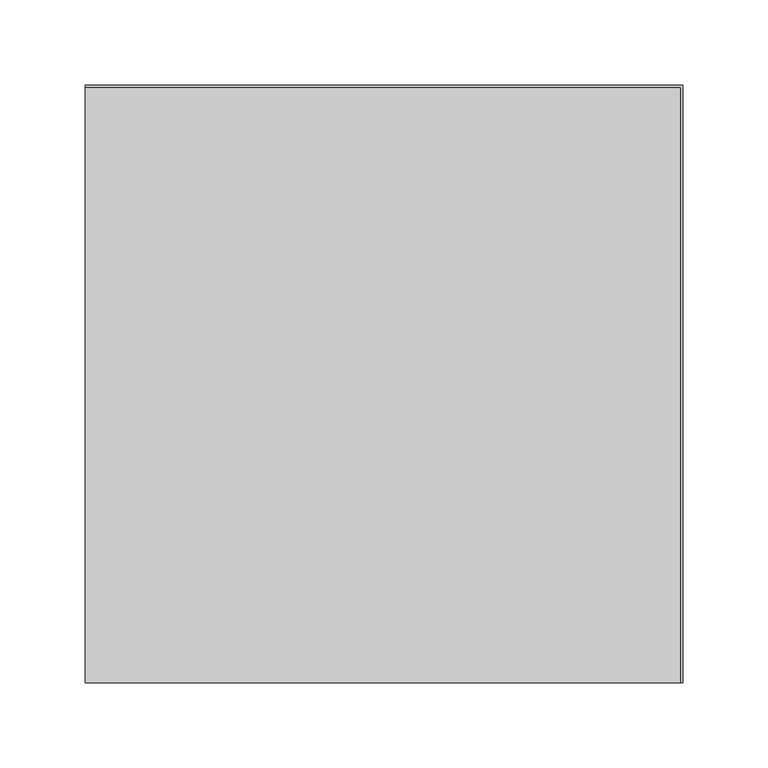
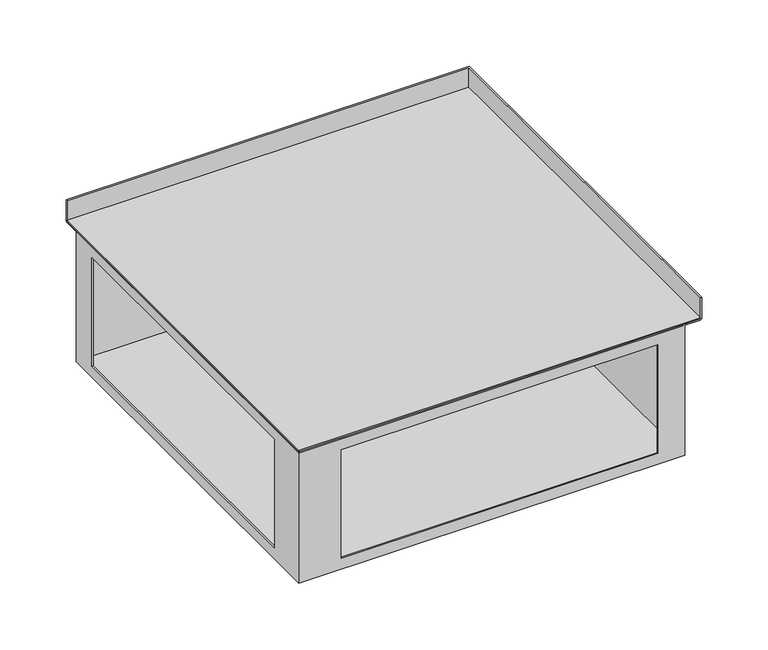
"""IFC4 building model written with IfcOpenShell, lengths in millimetres: proxy geometry, TECHNO_Угловой элемент_KVU : 350_140_90°."""

from ifc_helpers import new_model, si_unit, frame, origin, place, context, project, spatial, polyline, circle_curve, ellipse_curve, outline, extrude, source, transform, mapped, element, save
from ifc_brep_helpers import plane_surface, cylinder_surface, advanced_brep


def mechanical_equipment_83b2ba30(model_context):
    return source(origin(), model_context, "Body", "SolidModel", [
        extrude(outline(polyline([(0.0, 173.8), (348.8, 173.8), (348.8, -175.0), (0.0, -175.0), (0.0, 173.8)])), frame((0.0, 0.0, -19.3), z_axis=(0.0, 0.0, 1.0), x_axis=(1.0, 0.0, 0.0)), (0.0, 0.0, 1.0), 1.2),
        advanced_brep(
        [(1.2, 159.0, -138.8), (1.2, -173.8, -138.8), (334.0, -173.8, -138.8), (334.0, 159.0, -138.8), (0.0, 160.2, -140.0), (335.2, 160.2, -140.0), (335.2, -175.0, -140.0), (0.0, -175.0, -140.0), (0.0, 160.2, -20.5), (0.0, -175.0, -20.5), (0.0, 159.0, -20.5), (0.0, 160.2, -19.3), (0.0, 173.8, -19.3), (0.0, 173.8, 0.0), (0.0, 175.0, 0.0), (0.0, 175.0, -19.3), (0.0, 173.8, -20.5), (0.0, -138.0, -30.3), (0.0, -138.0, -130.0), (0.0, 137.0, -130.0), (0.0, 137.0, -30.3), (335.2, -175.0, -20.5), (348.8, -175.0, -20.5), (350.0, -175.0, -19.3), (350.0, -175.0, 0.0), (348.8, -175.0, 0.0), (348.8, -175.0, -19.3), (335.2, -175.0, -19.3), (334.0, -175.0, -20.5), (37.0, -175.0, -130.0), (37.0, -175.0, -30.3), (312.0, -175.0, -30.3), (312.0, -175.0, -130.0), (335.2, 160.2, -20.5), (1.2, 160.2, -19.3), (1.2, -173.8, -19.3), (335.2, -173.8, -19.3), (348.8, 173.8, -19.3), (335.2, -159.0, -19.3), (16.0, -159.0, -19.3), (16.0, 160.2, -19.3), (335.2, 160.2, -19.3), (16.0, -159.0, -20.5), (16.0, 159.0, -20.5), (334.0, -159.0, -20.5), (334.0, -173.8, -20.5), (1.2, -173.8, -20.5), (1.2, 159.0, -20.5), (1.2, -138.0, -130.0), (1.2, -138.0, -30.3), (1.2, 137.0, -30.3), (1.2, 137.0, -130.0), (37.0, -173.8, -30.3), (37.0, -173.8, -130.0), (312.0, -173.8, -130.0), (312.0, -173.8, -30.3), (350.0, 175.0, -19.3), (350.0, 175.0, 0.0), (348.8, 173.8, 0.0), (348.8, 173.8, -20.5), (334.0, 159.0, -20.5)],
        [
            (0, 1),
            (1, 2),
            (2, 3),
            (3, 0),
            (4, 5),
            (5, 6),
            (6, 7),
            (7, 4),
            (8, 4),
            (7, 9),
            (9, 10),
            (10, 11, circle_curve(frame((0.0, 160.2, -20.5), z_axis=(-1.0, 0.0, 0.0), x_axis=(0.0, -1.0, 0.0)), 1.2)),
            (11, 12),
            (12, 13),
            (13, 14),
            (14, 15),
            (15, 16, circle_curve(frame((0.0, 173.8, -19.3), z_axis=(-1.0, 0.0, 0.0), x_axis=(0.0, -1.0, 0.0)), 1.2)),
            (16, 8),
            (17, 18),
            (18, 19),
            (19, 20),
            (20, 17),
            (6, 21),
            (21, 22),
            (22, 23, circle_curve(frame((348.8, -175.0, -19.3), z_axis=(0.0, -1.0, 0.0), x_axis=(-1.0, 0.0, 0.0)), 1.2)),
            (23, 24),
            (24, 25),
            (25, 26),
            (26, 27),
            (27, 28, circle_curve(frame((335.2, -175.0, -20.5), z_axis=(0.0, -1.0, 0.0), x_axis=(-1.0, 0.0, 0.0)), 1.2)),
            (28, 9),
            (29, 30),
            (30, 31),
            (31, 32),
            (32, 29),
            (8, 33),
            (33, 5),
            (33, 21),
            (34, 35),
            (35, 36),
            (36, 27),
            (26, 37),
            (37, 12),
            (11, 34),
            (38, 39),
            (39, 40),
            (40, 41),
            (41, 38),
            (39, 42),
            (42, 43),
            (43, 40, circle_curve(frame((16.0, 160.2, -20.5), z_axis=(-1.0, 0.0, 0.0), x_axis=(0.0, -1.0, 0.0)), 1.2)),
            (38, 44, circle_curve(frame((335.2, -159.0, -20.5), z_axis=(0.0, -1.0, 0.0), x_axis=(-1.0, 0.0, 0.0)), 1.2)),
            (44, 42),
            (44, 45),
            (45, 46),
            (46, 47),
            (47, 43),
            (46, 1),
            (0, 47),
            (48, 49),
            (49, 50),
            (50, 51),
            (51, 48),
            (45, 2),
            (52, 53),
            (53, 54),
            (54, 55),
            (55, 52),
            (34, 10, ellipse_curve(frame((1.2, 160.2, -20.5), z_axis=(0.7071067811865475, -0.7071067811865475, 0.0), x_axis=(0.7071067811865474, 0.7071067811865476, 0.0)), 1.6970563, 1.2)),
            (9, 35, ellipse_curve(frame((1.2, -173.8, -20.5), z_axis=(-0.7071067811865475, 0.7071067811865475, 0.0), x_axis=(0.7071067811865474, 0.7071067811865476, 0.0)), 1.6970563, 1.2)),
            (28, 36, ellipse_curve(frame((335.2, -173.8, -20.5), z_axis=(-0.7071067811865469, 0.7071067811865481, 0.0), x_axis=(-0.7071067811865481, -0.7071067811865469, 0.0)), 1.6970563, 1.2)),
            (23, 56),
            (56, 57),
            (57, 24),
            (57, 14),
            (13, 58),
            (58, 25),
            (58, 37),
            (16, 59),
            (59, 22),
            (59, 56, ellipse_curve(frame((348.8, 173.8, -19.3), z_axis=(0.7071067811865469, -0.7071067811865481, 0.0), x_axis=(-0.7071067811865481, -0.7071067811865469, 0.0)), 1.6970563, 1.2)),
            (56, 15),
            (41, 60, ellipse_curve(frame((335.2, 160.2, -20.5), z_axis=(0.7071067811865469, -0.7071067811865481, 0.0), x_axis=(-0.7071067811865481, -0.7071067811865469, 0.0)), 1.6970563, 1.2)),
            (60, 44),
            (60, 3),
            (43, 60),
            (48, 18),
            (17, 49),
            (51, 19),
            (50, 20),
            (52, 30),
            (29, 53),
            (55, 31),
            (54, 32),
        ],
        [
            plane_surface(frame((0.0, 159.0, -138.8), z_axis=(0.0, 0.0, 1.0), x_axis=(0.0, -1.0, 0.0))),
            plane_surface(frame((0.0, 159.0, -140.0), z_axis=(0.0, 0.0, -1.0), x_axis=(0.0, 1.0, 0.0))),
            plane_surface(frame((0.0, 159.0, -138.8), z_axis=(-1.0, 0.0, 0.0), x_axis=(0.0, 0.0, -1.0))),
            plane_surface(frame((0.0, -175.0, -138.8), z_axis=(0.0, -1.0, 0.0), x_axis=(0.0, 0.0, -1.0))),
            plane_surface(frame((0.0, 160.2, -140.0), z_axis=(0.0, 1.0, 0.0), x_axis=(0.0, 0.0, -1.0))),
            plane_surface(frame((335.2, -175.0, -140.0), z_axis=(1.0, 0.0, 0.0), x_axis=(0.0, 0.0, -1.0))),
            plane_surface(frame((1.2, 160.2, -19.3), z_axis=(0.0, 0.0, 1.0), x_axis=(0.0, -1.0, 0.0))),
            plane_surface(frame((16.0, 160.2, -19.3), z_axis=(1.0, 0.0, 0.0), x_axis=(0.0, -1.0, 0.0))),
            plane_surface(frame((16.0, -159.0, -19.3), z_axis=(0.0, 1.0, 0.0), x_axis=(1.0, 0.0, 0.0))),
            plane_surface(frame((16.0, 160.2, -20.5), z_axis=(0.0, 0.0, -1.0), x_axis=(0.0, -1.0, 0.0))),
            plane_surface(frame((1.2, 160.2, -20.5), z_axis=(1.0, 0.0, 0.0), x_axis=(0.0, -1.0, 0.0))),
            plane_surface(frame((1.2, -173.8, -20.5), z_axis=(0.0, 1.0, 0.0), x_axis=(1.0, 0.0, 0.0))),
            cylinder_surface(frame((1.2, 160.2, -20.5), z_axis=(0.0, 1.0, 0.0), x_axis=(-1.0, 0.0, 0.0)), 1.2),
            cylinder_surface(frame((0.0, -173.8, -20.5), z_axis=(-1.0, 0.0, 0.0), x_axis=(0.0, -1.0, 0.0)), 1.2),
            plane_surface(frame((350.0, -175.0, -19.3), z_axis=(1.0, 0.0, 0.0), x_axis=(0.0, 1.0, 0.0))),
            plane_surface(frame((350.0, -175.0, 0.0), z_axis=(0.0, 0.0, 1.0), x_axis=(0.0, 1.0, 0.0))),
            plane_surface(frame((348.8, -175.0, 0.0), z_axis=(-1.0, 0.0, 0.0), x_axis=(0.0, 1.0, 0.0))),
            plane_surface(frame((335.2, -175.0, -20.5), z_axis=(0.0, 0.0, -1.0), x_axis=(0.0, 1.0, 0.0))),
            cylinder_surface(frame((348.8, -175.0, -19.3), z_axis=(0.0, -1.0, 0.0), x_axis=(-1.0, 0.0, 0.0)), 1.2),
            plane_surface(frame((350.0, 175.0, -19.3), z_axis=(0.0, 1.0, 0.0), x_axis=(-1.0, 0.0, 0.0))),
            plane_surface(frame((348.8, 173.8, 0.0), z_axis=(0.0, -1.0, 0.0), x_axis=(-1.0, 0.0, 0.0))),
            cylinder_surface(frame((175.0, 173.8, -19.3), z_axis=(1.0, 0.0, 0.0), x_axis=(0.0, -1.0, 0.0)), 1.2),
            cylinder_surface(frame((335.2, -175.0, -20.5), z_axis=(0.0, -1.0, 0.0), x_axis=(-1.0, 0.0, 0.0)), 1.2),
            plane_surface(frame((334.0, -175.0, -20.5), z_axis=(-1.0, 0.0, 0.0), x_axis=(0.0, 1.0, 0.0))),
            cylinder_surface(frame((175.0, 160.2, -20.5), z_axis=(1.0, 0.0, 0.0), x_axis=(0.0, -1.0, 0.0)), 1.2),
            plane_surface(frame((334.0, 159.0, -20.5), z_axis=(0.0, -1.0, 0.0), x_axis=(-1.0, 0.0, 0.0))),
            plane_surface(frame((1.2, -138.0, -30.3), z_axis=(0.0, 1.0, 0.0), x_axis=(-1.0, 0.0, 0.0))),
            plane_surface(frame((1.2, -138.0, -130.0), z_axis=(0.0, 0.0, 1.0), x_axis=(-1.0, 0.0, 0.0))),
            plane_surface(frame((1.2, 137.0, -130.0), z_axis=(0.0, -1.0, 0.0), x_axis=(-1.0, 0.0, 0.0))),
            plane_surface(frame((1.2, 137.0, -30.3), z_axis=(0.0, 0.0, -1.0), x_axis=(-1.0, 0.0, 0.0))),
            plane_surface(frame((37.0, -173.8, -130.0), z_axis=(1.0, 0.0, 0.0), x_axis=(0.0, -1.0, 0.0))),
            plane_surface(frame((37.0, -173.8, -30.3), z_axis=(0.0, 0.0, -1.0), x_axis=(0.0, -1.0, 0.0))),
            plane_surface(frame((312.0, -173.8, -30.3), z_axis=(-1.0, 0.0, 0.0), x_axis=(0.0, -1.0, 0.0))),
            plane_surface(frame((312.0, -173.8, -130.0), z_axis=(0.0, 0.0, 1.0), x_axis=(0.0, -1.0, 0.0))),
        ],
        [
            (0, [[1, 2, 3, 4]]),
            (1, [[5, 6, 7, 8]]),
            (2, [[9, -8, 10, 11, 12, 13, 14, 15, 16, 17, 18], [19, 20, 21, 22]]),
            (3, [[23, 24, 25, 26, 27, 28, 29, 30, 31, -10, -7], [32, 33, 34, 35]]),
            (4, [[-9, 36, 37, -5]]),
            (5, [[-23, -6, -37, 38]]),
            (6, [[39, 40, 41, -29, 42, 43, -13, 44], [45, 46, 47, 48]]),
            (7, [[-46, 49, 50, 51]]),
            (8, [[-45, 52, 53, -49]]),
            (9, [[-50, -53, 54, 55, 56, 57]]),
            (10, [[58, -1, 59, -56], [60, 61, 62, 63]]),
            (11, [[-58, -55, 64, -2], [65, 66, 67, 68]]),
            (12, [[-39, 69, -11, 70]]),
            (13, [[-40, -70, -31, 71]]),
            (14, [[-26, 72, 73, 74]]),
            (15, [[-27, -74, 75, -15, 76, 77]]),
            (16, [[-28, -77, 78, -42]]),
            (17, [[-24, -38, -36, -18, 79, 80]]),
            (18, [[-25, -80, 81, -72]]),
            (19, [[-73, 82, -16, -75]]),
            (20, [[-76, -14, -43, -78]]),
            (21, [[-79, -17, -82, -81]]),
            (22, [[-30, -41, -71]]),
            (22, [[83, 84, -52, -48]]),
            (23, [[85, -3, -64, -54, -84]]),
            (24, [[-12, -69, -44]]),
            (24, [[-83, -47, -51, 86]]),
            (25, [[-85, -86, -57, -59, -4]]),
            (26, [[87, -19, 88, -60]]),
            (27, [[-87, -63, 89, -20]]),
            (28, [[-89, -62, 90, -21]]),
            (29, [[-88, -22, -90, -61]]),
            (30, [[91, -32, 92, -65]]),
            (31, [[-91, -68, 93, -33]]),
            (32, [[-93, -67, 94, -34]]),
            (33, [[-92, -35, -94, -66]]),
        ],
    ),
    ])


if __name__ == "__main__":
    model = new_model("IFC4")
    model_context = context("Model", 3, world=origin())
    ifc_project = project(units=[si_unit("LENGTHUNIT", "METRE", prefix="MILLI")], contexts=[model_context])
    site = spatial("IfcSite", under=ifc_project)
    building = spatial("IfcBuilding", under=site)
    placement = place(None, origin())
    mechanical_equipment_shape = mechanical_equipment_83b2ba30(model_context)
    element("IfcBuildingElementProxy", 1, Name="TECHNO_Угловой элемент_KVU : 350_140_90°", ObjectType="TECHNO_Угловой элемент_KVU : 350_140_90°", at=placement, inside=building, context=model_context, shape_type="MappedRepresentation", body=[
        mapped(mechanical_equipment_shape, transform((0.0, 0.0, 0.0), x_axis=(1.0, 0.0, 0.0), y_axis=(0.0, 1.0, 0.0), z_axis=(0.0, 0.0, 1.0))),
    ])
    save(model, "model.ifc")
